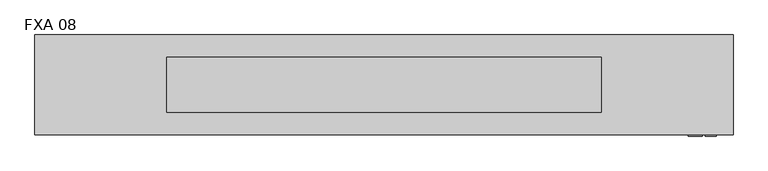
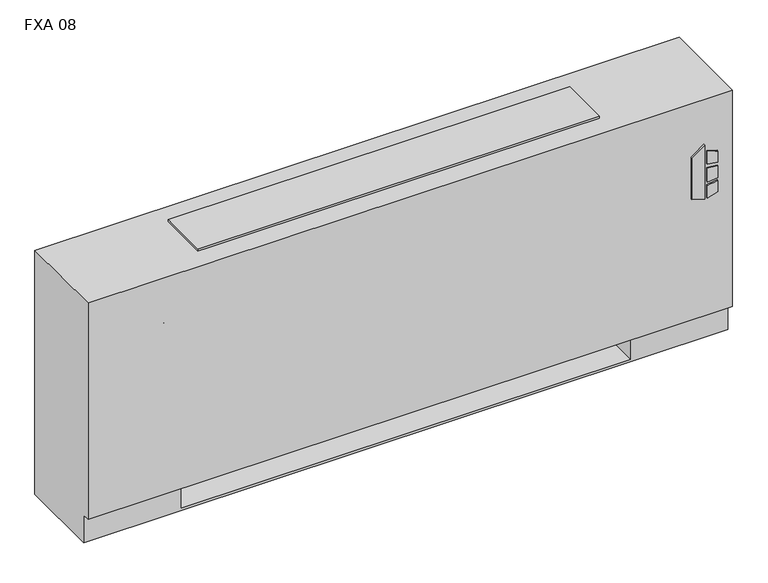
"""IFC4 building model written with IfcOpenShell, lengths in millimetres: proxy geometry, Vertical_Fan_Coil_Unit_-_FXA_-_IEC_-_4-Pipe_TS-FR_LH_2022 : FXA 08."""

from ifc_helpers import new_model, si_unit, point, frame, frame_2d, origin, place, context, project, spatial, polyline, circle_curve, trimmed, segment, composite_curve, outline, extrude, source, transform, mapped, element, save
from ifc_brep_helpers import plane_surface, revolved_surface, advanced_brep


def fxa_08_84f98a87(model_context):
    return source(origin(), model_context, "Body", "SolidModel", [
        extrude(outline(polyline([(391.6086829, 849.3868862), (381.6606126, 881.5602728), (523.831537, 881.5602728), (500.8095309, 849.3868862), (391.6086829, 849.3868862)])), frame((0.0, 12.7, 0.0), z_axis=(0.0, 1.0, 0.0), x_axis=(0.0, 0.0, 1.0)), (0.0, 0.0, 1.0), 3.175),
        extrude(outline(polyline([(470.6079683, 888.3186058), (467.4055757, 914.4), (496.6344168, 914.4), (504.6988318, 888.3186058), (470.6079683, 888.3186058)])), frame((0.0, 12.7, 0.0), z_axis=(0.0, 1.0, 0.0), x_axis=(0.0, 0.0, 1.0)), (0.0, 0.0, 1.0), 3.175),
        extrude(outline(polyline([(418.7444414, 914.4), (415.0789404, 888.3186058), (381.6606126, 888.3186058), (390.2948498, 914.4), (418.7444414, 914.4)])), frame((0.0, 12.7, 0.0), z_axis=(0.0, 1.0, 0.0), x_axis=(0.0, 0.0, 1.0)), (0.0, 0.0, 1.0), 3.175),
        extrude(outline(polyline([(458.0596028, 914.4), (460.3414292, 888.3186058), (424.4038806, 888.3186058), (427.1451456, 914.4), (458.0596028, 914.4)])), frame((0.0, 12.7, 0.0), z_axis=(0.0, 1.0, 0.0), x_axis=(0.0, 0.0, 1.0)), (0.0, 0.0, 1.0), 3.175),
        extrude(outline(polyline([(831.85, 223.266), (831.85, 81.534), (711.2, 81.534), (711.2, 223.266), (831.85, 223.266)])), frame((0.0, 0.0, 327.025), z_axis=(0.0, 0.0, 1.0), x_axis=(1.0, 0.0, 0.0)), (0.0, 0.0, 1.0), 260.35),
        extrude(outline(composite_curve([segment(trimmed(circle_curve(frame_2d((-469.9, 130.175)), 9.525), [point((-479.425, 130.175))], [point((-460.375, 130.175))], False, "CARTESIAN"), True, "CONTINUOUS"), segment(trimmed(circle_curve(frame_2d((-469.9, 130.175)), 9.525), [point((-460.375, 130.175))], [point((-479.425, 130.175))], False, "CARTESIAN"), True, "CONTINUOUS")], self_intersect=False)), frame((0.0, 0.0, 101.6), z_axis=(0.0, 0.0, 1.0), x_axis=(1.0, 0.0, 0.0)), (0.0, 0.0, 1.0), 25.4),
        extrude(outline(polyline([(-565.15, 63.5), (-565.15, 196.85), (-406.4, 196.85), (-406.4, 63.5), (-565.15, 63.5)])), frame((0.0, 0.0, 127.0), z_axis=(0.0, 0.0, 1.0), x_axis=(1.0, 0.0, 0.0)), (0.0, 0.0, 1.0), 50.8),
        extrude(outline(composite_curve([segment(trimmed(circle_curve(frame_2d((109.0168, 457.2)), 7.9375), [point((109.0168, 465.1375))], [point((109.0168, 449.2625))], False, "CARTESIAN"), True, "CONTINUOUS"), segment(trimmed(circle_curve(frame_2d((109.0168, 457.2)), 7.9375), [point((109.0168, 449.2625))], [point((109.0168, 465.1375))], False, "CARTESIAN"), True, "CONTINUOUS")], self_intersect=False)), frame((-457.2, 0.0, 0.0), z_axis=(1.0, 0.0, 0.0), x_axis=(0.0, 1.0, 0.0)), (0.0, 0.0, 1.0), 50.8),
        extrude(outline(composite_curve([segment(trimmed(circle_curve(frame_2d((172.085, 460.0194)), 7.9375), [point((172.085, 467.9569))], [point((172.085, 452.0819))], False, "CARTESIAN"), True, "CONTINUOUS"), segment(trimmed(circle_curve(frame_2d((172.085, 460.0194)), 7.9375), [point((172.085, 452.0819))], [point((172.085, 467.9569))], False, "CARTESIAN"), True, "CONTINUOUS")], self_intersect=False)), frame((-457.2, 0.0, 0.0), z_axis=(1.0, 0.0, 0.0), x_axis=(0.0, 1.0, 0.0)), (0.0, 0.0, 1.0), 50.8),
        extrude(outline(composite_curve([segment(trimmed(circle_curve(frame_2d((130.175, 554.99)), 7.9502), [point((130.175, 562.9402))], [point((130.175, 547.0398))], False, "CARTESIAN"), True, "CONTINUOUS"), segment(trimmed(circle_curve(frame_2d((130.175, 554.99)), 7.9502), [point((130.175, 547.0398))], [point((130.175, 562.9402))], False, "CARTESIAN"), True, "CONTINUOUS")], self_intersect=False)), frame((-457.2, 0.0, 0.0), z_axis=(1.0, 0.0, 0.0), x_axis=(0.0, 1.0, 0.0)), (0.0, 0.0, 1.0), 50.8),
        extrude(outline(composite_curve([segment(trimmed(circle_curve(frame_2d((53.975, 416.56)), 7.9502), [point((53.975, 424.5102))], [point((53.975, 408.6098))], False, "CARTESIAN"), True, "CONTINUOUS"), segment(trimmed(circle_curve(frame_2d((53.975, 416.56)), 7.9502), [point((53.975, 408.6098))], [point((53.975, 424.5102))], False, "CARTESIAN"), True, "CONTINUOUS")], self_intersect=False)), frame((-457.2, 0.0, 0.0), z_axis=(1.0, 0.0, 0.0), x_axis=(0.0, 1.0, 0.0)), (0.0, 0.0, 1.0), 50.8),
        advanced_brep(
        [(952.5, 244.475, 641.35), (-647.7, 244.475, 641.35), (-647.7, 15.875, 641.35), (952.5, 15.875, 641.35), (-647.7, 244.475, 0.0), (952.5, 244.475, 0.0), (952.5, 34.925, 0.0), (-647.7, 34.925, 0.0), (711.2, 244.475, 73.025), (939.8, 244.475, 73.025), (939.8, 244.475, 628.65), (711.2, 244.475, 628.65), (711.2, 244.475, 414.8650565), (739.775, 244.475, 414.8650565), (739.775, 244.475, 385.2349435), (711.2, 244.475, 385.2349435), (711.2, 244.475, 287.3375), (739.775, 244.475, 287.3375), (739.775, 244.475, 258.7625), (711.2, 244.475, 258.7625), (711.2, 244.475, 141.2875), (739.775, 244.475, 141.2875), (739.775, 244.475, 112.7125), (711.2, 244.475, 112.7125), (-406.4, 244.475, 628.65), (-635.0, 244.475, 628.65), (-635.0, 244.475, 73.025), (-406.4, 244.475, 73.025), (-406.4, 244.475, 112.7125), (-434.975, 244.475, 112.7125), (-434.975, 244.475, 141.2875), (-406.4, 244.475, 141.2875), (-406.4, 244.475, 258.7625), (-434.975, 244.475, 258.7625), (-434.975, 244.475, 287.3375), (-406.4, 244.475, 287.3375), (-406.4, 244.475, 385.2349435), (-434.975, 244.475, 385.2349435), (-434.975, 244.475, 414.8650565), (-406.4, 244.475, 414.8650565), (729.4626, 244.475, 127.0), (718.3374, 244.475, 127.0), (729.4626, 244.475, 400.05), (718.3374, 244.475, 400.05), (729.4626, 244.475, 273.05), (718.3374, 244.475, 273.05), (-413.5374, 244.475, 127.0), (-424.6626, 244.475, 127.0), (-413.5374, 244.475, 273.05), (-424.6626, 244.475, 273.05), (-413.5374, 244.475, 400.05), (-424.6626, 244.475, 400.05), (-647.7, 34.925, 73.025), (-647.7, 15.875, 73.025), (952.5, 15.875, 73.025), (952.5, 34.925, 73.025), (-406.4, 34.925, 73.025), (-406.4, 219.075, 73.025), (711.2, 219.075, 73.025), (711.2, 34.925, 73.025), (711.2, 34.925, 6.35), (-406.4, 34.925, 6.35), (711.2, 41.275, 628.65), (939.8, 41.275, 628.65), (939.8, 41.275, 73.025), (711.2, 41.275, 73.025), (-406.4, 41.275, 628.65), (-406.4, 41.275, 73.025), (-635.0, 41.275, 73.025), (-635.0, 41.275, 628.65), (711.2, 219.075, 73.025), (711.2, 238.125, 112.7125), (711.2, 238.125, 141.2875), (711.2, 238.125, 258.7625), (711.2, 238.125, 287.3375), (711.2, 238.125, 385.2349435), (711.2, 238.125, 414.8650565), (-406.4, 219.075, 73.025), (-406.4, 238.125, 414.8650565), (-406.4, 238.125, 385.2349435), (-406.4, 238.125, 287.3375), (-406.4, 238.125, 258.7625), (-406.4, 238.125, 141.2875), (-406.4, 238.125, 112.7125), (-406.4, 219.075, 6.35), (711.2, 219.075, 6.35), (739.775, 238.125, 112.7125), (739.775, 238.125, 141.2875), (718.3374, 238.125, 127.0), (729.4626, 238.125, 127.0), (739.775, 238.125, 258.7625), (739.775, 238.125, 287.3375), (718.3374, 238.125, 273.05), (729.4626, 238.125, 273.05), (739.775, 238.125, 385.2349435), (739.775, 238.125, 414.8650565), (718.3374, 238.125, 400.05), (729.4626, 238.125, 400.05), (-434.975, 238.125, 141.2875), (-434.975, 238.125, 112.7125), (-424.6626, 238.125, 127.0), (-413.5374, 238.125, 127.0), (-434.975, 238.125, 287.3375), (-434.975, 238.125, 258.7625), (-424.6626, 238.125, 273.05), (-413.5374, 238.125, 273.05), (-434.975, 238.125, 414.8650565), (-434.975, 238.125, 385.2349435), (-424.6626, 238.125, 400.05), (-413.5374, 238.125, 400.05)],
        [
            (0, 1),
            (1, 2),
            (2, 3),
            (3, 0),
            (4, 5),
            (5, 6),
            (6, 7),
            (7, 4),
            (0, 5),
            (4, 1),
            (8, 9),
            (9, 10),
            (10, 11),
            (11, 12),
            (12, 13),
            (13, 14),
            (14, 15),
            (15, 16),
            (16, 17),
            (17, 18),
            (18, 19),
            (19, 20),
            (20, 21),
            (21, 22),
            (22, 23),
            (23, 8),
            (24, 25),
            (25, 26),
            (26, 27),
            (27, 28),
            (28, 29),
            (29, 30),
            (30, 31),
            (31, 32),
            (32, 33),
            (33, 34),
            (34, 35),
            (35, 36),
            (36, 37),
            (37, 38),
            (38, 39),
            (39, 24),
            (40, 41, circle_curve(frame((723.9, 244.475, 127.0), z_axis=(0.0, -1.0, 0.0), x_axis=(-1.0, 0.0, 0.0)), 5.5626)),
            (41, 40, circle_curve(frame((723.9, 244.475, 127.0), z_axis=(0.0, -1.0, 0.0), x_axis=(-1.0, 0.0, 0.0)), 5.5626)),
            (42, 43, circle_curve(frame((723.9, 244.475, 400.05), z_axis=(0.0, -1.0, 0.0), x_axis=(-1.0, 0.0, 0.0)), 5.5626)),
            (43, 42, circle_curve(frame((723.9, 244.475, 400.05), z_axis=(0.0, -1.0, 0.0), x_axis=(-1.0, 0.0, 0.0)), 5.5626)),
            (44, 45, circle_curve(frame((723.9, 244.475, 273.05), z_axis=(0.0, -1.0, 0.0), x_axis=(-1.0, 0.0, 0.0)), 5.5626)),
            (45, 44, circle_curve(frame((723.9, 244.475, 273.05), z_axis=(0.0, -1.0, 0.0), x_axis=(-1.0, 0.0, 0.0)), 5.5626)),
            (46, 47, circle_curve(frame((-419.1, 244.475, 127.0), z_axis=(0.0, -1.0, 0.0), x_axis=(-1.0, 0.0, 0.0)), 5.5626)),
            (47, 46, circle_curve(frame((-419.1, 244.475, 127.0), z_axis=(0.0, -1.0, 0.0), x_axis=(-1.0, 0.0, 0.0)), 5.5626)),
            (48, 49, circle_curve(frame((-419.1, 244.475, 273.05), z_axis=(0.0, -1.0, 0.0), x_axis=(-1.0, 0.0, 0.0)), 5.5626)),
            (49, 48, circle_curve(frame((-419.1, 244.475, 273.05), z_axis=(0.0, -1.0, 0.0), x_axis=(-1.0, 0.0, 0.0)), 5.5626)),
            (50, 51, circle_curve(frame((-419.1, 244.475, 400.05), z_axis=(0.0, -1.0, 0.0), x_axis=(-1.0, 0.0, 0.0)), 5.5626)),
            (51, 50, circle_curve(frame((-419.1, 244.475, 400.05), z_axis=(0.0, -1.0, 0.0), x_axis=(-1.0, 0.0, 0.0)), 5.5626)),
            (7, 52),
            (52, 53),
            (53, 2),
            (53, 54),
            (54, 3),
            (54, 55),
            (55, 6),
            (52, 56),
            (56, 57),
            (57, 58),
            (58, 59),
            (59, 55),
            (59, 60),
            (60, 61),
            (61, 56),
            (62, 63),
            (63, 64),
            (64, 65),
            (65, 62),
            (66, 67),
            (67, 68),
            (68, 69),
            (69, 66),
            (65, 70),
            (70, 8),
            (23, 71),
            (71, 72),
            (72, 20),
            (19, 73),
            (73, 74),
            (74, 16),
            (15, 75),
            (75, 76),
            (76, 12),
            (11, 62),
            (64, 9),
            (63, 10),
            (69, 25),
            (24, 66),
            (68, 26),
            (67, 77),
            (77, 27),
            (39, 78),
            (78, 79),
            (79, 36),
            (35, 80),
            (80, 81),
            (81, 32),
            (31, 82),
            (82, 83),
            (83, 28),
            (57, 84),
            (84, 85),
            (85, 58),
            (85, 60),
            (84, 61),
            (71, 86),
            (86, 87),
            (87, 72),
            (88, 89, circle_curve(frame((723.9, 238.125, 127.0), z_axis=(0.0, 1.0, 0.0), x_axis=(-1.0, 0.0, 0.0)), 5.5626)),
            (89, 88, circle_curve(frame((723.9, 238.125, 127.0), z_axis=(0.0, 1.0, 0.0), x_axis=(-1.0, 0.0, 0.0)), 5.5626)),
            (73, 90),
            (90, 91),
            (91, 74),
            (92, 93, circle_curve(frame((723.9, 238.125, 273.05), z_axis=(0.0, 1.0, 0.0), x_axis=(-1.0, 0.0, 0.0)), 5.5626)),
            (93, 92, circle_curve(frame((723.9, 238.125, 273.05), z_axis=(0.0, 1.0, 0.0), x_axis=(-1.0, 0.0, 0.0)), 5.5626)),
            (75, 94),
            (94, 95),
            (95, 76),
            (96, 97, circle_curve(frame((723.9, 238.125, 400.05), z_axis=(0.0, 1.0, 0.0), x_axis=(-1.0, 0.0, 0.0)), 5.5626)),
            (97, 96, circle_curve(frame((723.9, 238.125, 400.05), z_axis=(0.0, 1.0, 0.0), x_axis=(-1.0, 0.0, 0.0)), 5.5626)),
            (98, 99),
            (99, 83),
            (82, 98),
            (100, 101, circle_curve(frame((-419.1, 238.125, 127.0), z_axis=(0.0, 1.0, 0.0), x_axis=(-1.0, 0.0, 0.0)), 5.5626)),
            (101, 100, circle_curve(frame((-419.1, 238.125, 127.0), z_axis=(0.0, 1.0, 0.0), x_axis=(-1.0, 0.0, 0.0)), 5.5626)),
            (102, 103),
            (103, 81),
            (80, 102),
            (104, 105, circle_curve(frame((-419.1, 238.125, 273.05), z_axis=(0.0, 1.0, 0.0), x_axis=(-1.0, 0.0, 0.0)), 5.5626)),
            (105, 104, circle_curve(frame((-419.1, 238.125, 273.05), z_axis=(0.0, 1.0, 0.0), x_axis=(-1.0, 0.0, 0.0)), 5.5626)),
            (106, 107),
            (107, 79),
            (78, 106),
            (108, 109, circle_curve(frame((-419.1, 238.125, 400.05), z_axis=(0.0, 1.0, 0.0), x_axis=(-1.0, 0.0, 0.0)), 5.5626)),
            (109, 108, circle_curve(frame((-419.1, 238.125, 400.05), z_axis=(0.0, 1.0, 0.0), x_axis=(-1.0, 0.0, 0.0)), 5.5626)),
            (87, 21),
            (86, 22),
            (91, 17),
            (90, 18),
            (95, 13),
            (94, 14),
            (30, 98),
            (99, 29),
            (34, 102),
            (103, 33),
            (38, 106),
            (107, 37),
            (88, 41),
            (40, 89),
            (96, 43),
            (42, 97),
            (92, 45),
            (44, 93),
            (100, 47),
            (46, 101),
            (104, 49),
            (48, 105),
            (108, 51),
            (50, 109),
        ],
        [
            plane_surface(frame((-647.7, 244.475, 641.35), z_axis=(0.0, 0.0, 1.0), x_axis=(-1.0, 0.0, 0.0))),
            plane_surface(frame((-647.7, 244.475, 0.0), z_axis=(0.0, 0.0, -1.0), x_axis=(1.0, 0.0, 0.0))),
            plane_surface(frame((952.5, 244.475, 641.35), z_axis=(0.0, 1.0, 0.0), x_axis=(0.0, 0.0, -1.0))),
            plane_surface(frame((-647.7, 244.475, 641.35), z_axis=(-1.0, 0.0, 0.0), x_axis=(0.0, 0.0, -1.0))),
            plane_surface(frame((-647.7, 15.875, 641.35), z_axis=(0.0, -1.0, 0.0), x_axis=(0.0, 0.0, -1.0))),
            plane_surface(frame((952.5, 15.875, 641.35), z_axis=(1.0, 0.0, 0.0), x_axis=(0.0, 0.0, -1.0))),
            plane_surface(frame((-647.7, 15.875, 73.025), z_axis=(0.0, 0.0, -1.0), x_axis=(1.0, 0.0, 0.0))),
            plane_surface(frame((-647.7, 34.925, 73.025), z_axis=(0.0, -1.0, 0.0), x_axis=(1.0, 0.0, 0.0))),
            plane_surface(frame((711.2, 41.275, 628.65), z_axis=(0.0, 1.0, 0.0), x_axis=(0.0, 0.0, -1.0))),
            plane_surface(frame((711.2, 41.275, 628.65), z_axis=(1.0, 0.0, 0.0), x_axis=(0.0, 1.0, 0.0))),
            plane_surface(frame((711.2, 41.275, 73.025), z_axis=(0.0, 0.0, 1.0), x_axis=(0.0, 1.0, 0.0))),
            plane_surface(frame((939.8, 41.275, 73.025), z_axis=(-1.0, 0.0, 0.0), x_axis=(0.0, 1.0, 0.0))),
            plane_surface(frame((939.8, 41.275, 628.65), z_axis=(0.0, 0.0, -1.0), x_axis=(0.0, 1.0, 0.0))),
            plane_surface(frame((-406.4, 41.275, 628.65), z_axis=(0.0, 0.0, -1.0), x_axis=(0.0, 1.0, 0.0))),
            plane_surface(frame((-635.0, 41.275, 628.65), z_axis=(1.0, 0.0, 0.0), x_axis=(0.0, 1.0, 0.0))),
            plane_surface(frame((-635.0, 41.275, 73.025), z_axis=(0.0, 0.0, 1.0), x_axis=(0.0, 1.0, 0.0))),
            plane_surface(frame((-406.4, 41.275, 73.025), z_axis=(-1.0, 0.0, 0.0), x_axis=(0.0, 1.0, 0.0))),
            plane_surface(frame((711.2, 219.075, 73.025), z_axis=(0.0, -1.0, 0.0), x_axis=(0.0, 0.0, -1.0))),
            plane_surface(frame((711.2, 219.075, 73.025), z_axis=(-1.0, 0.0, 0.0), x_axis=(0.0, -1.0, 0.0))),
            plane_surface(frame((711.2, 219.075, 6.35), z_axis=(0.0, 0.0, 1.0), x_axis=(0.0, -1.0, 0.0))),
            plane_surface(frame((-406.4, 219.075, 6.35), z_axis=(1.0, 0.0, 0.0), x_axis=(0.0, -1.0, 0.0))),
            plane_surface(frame((739.775, 238.125, 141.2875), z_axis=(0.0, -1.0, 0.0), x_axis=(-1.0, 0.0, 0.0))),
            plane_surface(frame((711.2, 244.475, 141.2875), z_axis=(0.0, 0.0, 1.0), x_axis=(0.0, -1.0, 0.0))),
            plane_surface(frame((739.775, 244.475, 141.2875), z_axis=(1.0, 0.0, 0.0), x_axis=(0.0, -1.0, 0.0))),
            plane_surface(frame((739.775, 244.475, 112.7125), z_axis=(0.0, 0.0, -1.0), x_axis=(0.0, -1.0, 0.0))),
            plane_surface(frame((711.2, 244.475, 287.3375), z_axis=(0.0, 0.0, 1.0), x_axis=(0.0, -1.0, 0.0))),
            plane_surface(frame((739.775, 244.475, 287.3375), z_axis=(1.0, 0.0, 0.0), x_axis=(0.0, -1.0, 0.0))),
            plane_surface(frame((739.775, 244.475, 258.7625), z_axis=(0.0, 0.0, -1.0), x_axis=(0.0, -1.0, 0.0))),
            plane_surface(frame((711.2, 244.475, 414.8650565), z_axis=(0.0, 0.0, 1.0), x_axis=(0.0, -1.0, 0.0))),
            plane_surface(frame((739.775, 244.475, 414.8650565), z_axis=(1.0, 0.0, 0.0), x_axis=(0.0, -1.0, 0.0))),
            plane_surface(frame((739.775, 244.475, 385.2349435), z_axis=(0.0, 0.0, -1.0), x_axis=(0.0, -1.0, 0.0))),
            plane_surface(frame((-434.975, 244.475, 141.2875), z_axis=(0.0, 0.0, 1.0), x_axis=(0.0, -1.0, 0.0))),
            plane_surface(frame((-406.4, 244.475, 112.7125), z_axis=(0.0, 0.0, -1.0), x_axis=(0.0, -1.0, 0.0))),
            plane_surface(frame((-434.975, 244.475, 112.7125), z_axis=(-1.0, 0.0, 0.0), x_axis=(0.0, -1.0, 0.0))),
            plane_surface(frame((-434.975, 244.475, 287.3375), z_axis=(0.0, 0.0, 1.0), x_axis=(0.0, -1.0, 0.0))),
            plane_surface(frame((-406.4, 244.475, 258.7625), z_axis=(0.0, 0.0, -1.0), x_axis=(0.0, -1.0, 0.0))),
            plane_surface(frame((-434.975, 244.475, 258.7625), z_axis=(-1.0, 0.0, 0.0), x_axis=(0.0, -1.0, 0.0))),
            plane_surface(frame((-434.975, 244.475, 414.8650565), z_axis=(0.0, 0.0, 1.0), x_axis=(0.0, -1.0, 0.0))),
            plane_surface(frame((-406.4, 244.475, 385.2349435), z_axis=(0.0, 0.0, -1.0), x_axis=(0.0, -1.0, 0.0))),
            plane_surface(frame((-434.975, 244.475, 385.2349435), z_axis=(-1.0, 0.0, 0.0), x_axis=(0.0, -1.0, 0.0))),
            revolved_surface(polyline([(718.3374, 238.125, 127.0), (718.3374, 244.475, 127.0)]), (723.9, 244.475, 127.0), (0.0, -1.0, 0.0)),
            revolved_surface(polyline([(718.3374, 238.125, 400.05), (718.3374, 244.475, 400.05)]), (723.9, 244.475, 400.05), (0.0, -1.0, 0.0)),
            revolved_surface(polyline([(718.3374, 238.125, 273.05), (718.3374, 244.475, 273.05)]), (723.9, 244.475, 273.05), (0.0, -1.0, 0.0)),
            revolved_surface(polyline([(-424.6626, 238.125, 127.0), (-424.6626, 244.475, 127.0)]), (-419.1, 244.475, 127.0), (0.0, -1.0, 0.0)),
            revolved_surface(polyline([(-424.6626, 238.125, 273.05), (-424.6626, 244.475, 273.05)]), (-419.1, 244.475, 273.05), (0.0, -1.0, 0.0)),
            revolved_surface(polyline([(-424.6626, 238.125, 400.05), (-424.6626, 244.475, 400.05)]), (-419.1, 244.475, 400.05), (0.0, -1.0, 0.0)),
        ],
        [
            (0, [[1, 2, 3, 4]]),
            (1, [[5, 6, 7, 8]]),
            (2, [[-1, 9, -5, 10], [11, 12, 13, 14, 15, 16, 17, 18, 19, 20, 21, 22, 23, 24, 25, 26], [27, 28, 29, 30, 31, 32, 33, 34, 35, 36, 37, 38, 39, 40, 41, 42], [43, 44], [45, 46], [47, 48], [49, 50], [51, 52], [53, 54]]),
            (3, [[-2, -10, -8, 55, 56, 57]]),
            (4, [[-3, -57, 58, 59]]),
            (5, [[-4, -59, 60, 61, -6, -9]]),
            (6, [[-56, 62, 63, 64, 65, 66, -60, -58]]),
            (7, [[-7, -61, -66, 67, 68, 69, -62, -55]]),
            (8, [[70, 71, 72, 73]]),
            (8, [[74, 75, 76, 77]]),
            (9, [[-73, 78, 79, -26, 80, 81, 82, -22, 83, 84, 85, -18, 86, 87, 88, -14, 89]]),
            (10, [[-72, 90, -11, -79, -78]]),
            (11, [[-71, 91, -12, -90]]),
            (12, [[-70, -89, -13, -91]]),
            (13, [[-77, 92, -27, 93]]),
            (14, [[-76, 94, -28, -92]]),
            (15, [[-75, 95, 96, -29, -94]]),
            (16, [[-74, -93, -42, 97, 98, 99, -38, 100, 101, 102, -34, 103, 104, 105, -30, -96, -95]]),
            (17, [[-64, 106, 107, 108]]),
            (18, [[-108, 109, -67, -65]]),
            (19, [[-107, 110, -68, -109]]),
            (20, [[-106, -63, -69, -110]]),
            (21, [[111, 112, 113, -81], [114, 115]]),
            (21, [[116, 117, 118, -84], [119, 120]]),
            (21, [[121, 122, 123, -87], [124, 125]]),
            (21, [[126, 127, -104, 128], [129, 130]]),
            (21, [[131, 132, -101, 133], [134, 135]]),
            (21, [[136, 137, -98, 138], [139, 140]]),
            (22, [[-113, 141, -23, -82]]),
            (23, [[-112, 142, -24, -141]]),
            (24, [[-111, -80, -25, -142]]),
            (25, [[-118, 143, -19, -85]]),
            (26, [[-117, 144, -20, -143]]),
            (27, [[-116, -83, -21, -144]]),
            (28, [[-123, 145, -15, -88]]),
            (29, [[-122, 146, -16, -145]]),
            (30, [[-121, -86, -17, -146]]),
            (31, [[-128, -103, -33, 147]]),
            (32, [[-127, 148, -31, -105]]),
            (33, [[-126, -147, -32, -148]]),
            (34, [[-133, -100, -37, 149]]),
            (35, [[-132, 150, -35, -102]]),
            (36, [[-131, -149, -36, -150]]),
            (37, [[-138, -97, -41, 151]]),
            (38, [[-137, 152, -39, -99]]),
            (39, [[-136, -151, -40, -152]]),
            (40, [[153, -43, 154, -114]]),
            (40, [[-153, -115, -154, -44]]),
            (41, [[155, -45, 156, -124]]),
            (41, [[-155, -125, -156, -46]]),
            (42, [[157, -47, 158, -119]]),
            (42, [[-157, -120, -158, -48]]),
            (43, [[159, -49, 160, -129]]),
            (43, [[-159, -130, -160, -50]]),
            (44, [[161, -51, 162, -134]]),
            (44, [[-161, -135, -162, -52]]),
            (45, [[163, -53, 164, -139]]),
            (45, [[-163, -140, -164, -54]]),
        ],
    ),
        extrude(outline(polyline([(650.875, 193.675), (650.875, 66.675), (-346.075, 66.675), (-346.075, 193.675), (650.875, 193.675)])), frame((0.0, 0.0, 641.35), z_axis=(0.0, 0.0, 1.0), x_axis=(1.0, 0.0, 0.0)), (0.0, 0.0, 1.0), 6.35),
    ])


if __name__ == "__main__":
    model = new_model("IFC4")
    model_context = context("Model", 3, world=origin())
    ifc_project = project(units=[si_unit("LENGTHUNIT", "METRE", prefix="MILLI")], contexts=[model_context])
    site = spatial("IfcSite", under=ifc_project)
    building = spatial("IfcBuilding", under=site)
    placement = place(None, origin())
    fxa_08_shape = fxa_08_84f98a87(model_context)
    element("IfcBuildingElementProxy", 1, Name="Vertical_Fan_Coil_Unit_-_FXA_-_IEC_-_4-Pipe_TS-FR_LH_2022 : FXA 08", ObjectType="Vertical_Fan_Coil_Unit_-_FXA_-_IEC_-_4-Pipe_TS-FR_LH_2022 : FXA 08", at=placement, inside=building, context=model_context, shape_type="MappedRepresentation", body=[
        mapped(fxa_08_shape, transform((0.0, 0.0, 0.0), x_axis=(1.0, 0.0, 0.0), y_axis=(0.0, 1.0, 0.0), z_axis=(0.0, 0.0, 1.0))),
    ])
    save(model, "model.ifc")
